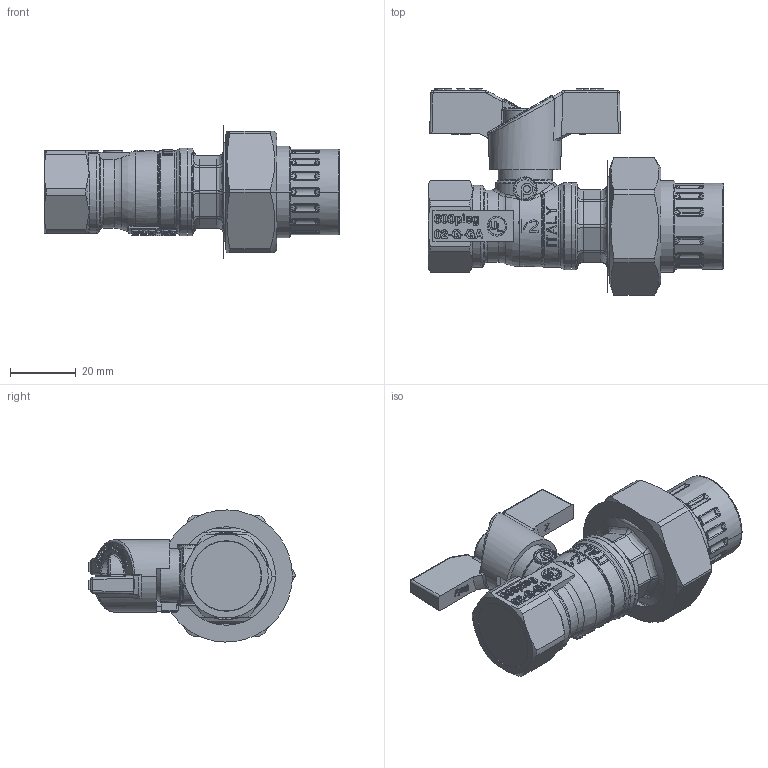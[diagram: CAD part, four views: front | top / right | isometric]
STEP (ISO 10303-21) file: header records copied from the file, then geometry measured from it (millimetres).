
FILE_DESCRIPTION((''),'2;1');
FILE_NAME('T204FU_1-2_ASM','2022-05-19T17:05:18',('Sergio.Dandrea'),(''),'CREO PARAMETRIC BY PTC INC, 2021164','CREO PARAMETRIC BY PTC INC, 2021164','');
FILE_SCHEMA(('CONFIG_CONTROL_DESIGN'));
Products named in the file (13): 11104; 11107; 16243; 11108; 11109; 89125; 87057; 89176; 88402; SEDE_PTFE_F12; OR_107_8_5X1_4; 87131; T204FU_1-2_ASM
Assembly tree (14 placements, depth 2):
  T204FU_1-2_ASM
    11104
    11107
    16243
    11108
    11109
    89125
    87057
    89176
    88402
    SEDE_PTFE_F12  x2
    OR_107_8_5X1_4  x2
    87131
Bounding box: 89.9 x 62.6 x 40.14 mm (x, y, z)
Volume: 46029.3 mm3; surface area: 39198 mm2
Topology: 14 solids, 23 shells, 2393 faces, 6220 edges, 3991 vertices
Faces by surface type: plane 620, extrusion 615, bspline 612, cylinder 261, cone 126, torus 111, sphere 32, revolution 16
Entity records: 104479 total; most frequent: CARTESIAN_POINT 52489, ORIENTED_EDGE 12303, DIRECTION 7548, EDGE_CURVE 6174, VERTEX_POINT 3967, B_SPLINE_CURVE_WITH_KNOTS 3245, VECTOR 3144, EDGE_LOOP 2530
